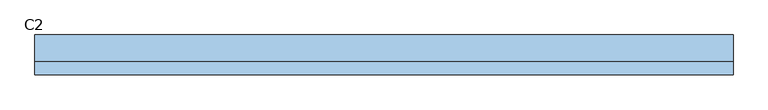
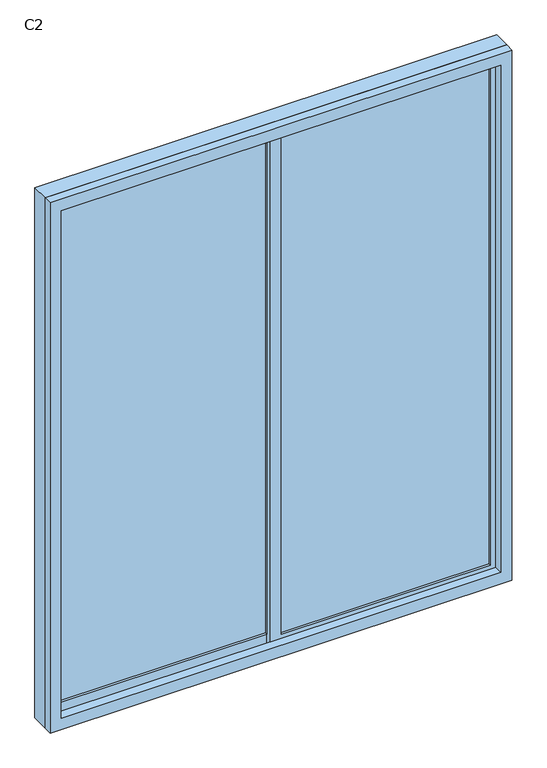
"""IFC4 building model written with IfcOpenShell, lengths in millimetres: window geometry, 推拉窗6 : C2."""

from ifc_helpers import new_model, si_unit, frame, origin, place, context, project, spatial, polyline, outline, extrude, source, transform, mapped, element, save


def c2_1197bc4f(model_context):
    return source(origin(), model_context, "Body", "SweptSolid", [
        extrude(outline(polyline([(-965.475, -36.8734375), (-15.475, -36.8734375), (-15.475, -46.8734375), (-965.475, -46.8734375), (-965.475, -36.8734375)])), frame((0.0, 0.0, 225.0), z_axis=(0.0, 0.0, 1.0), x_axis=(1.0, 0.0, 0.0)), (0.0, 0.0, 1.0), 2400.0),
        extrude(outline(polyline([(34.525, -66.8734375), (984.525, -66.8734375), (984.525, -76.8734375), (34.525, -76.8734375), (34.525, -66.8734375)])), frame((0.0, 0.0, 225.0), z_axis=(0.0, 0.0, 1.0), x_axis=(1.0, 0.0, 0.0)), (0.0, 0.0, 1.0), 2400.0),
        extrude(outline(polyline([(2700.0, -1040.475), (150.0, -1040.475), (150.0, 1059.525), (2700.0, 1059.525), (2700.0, -1040.475)]), holes=[polyline([(2645.0, 1009.525), (205.0, 1009.525), (205.0, -990.475), (2645.0, -990.475), (2645.0, 1009.525)])]), frame((0.0, -126.8734375, 0.0), z_axis=(0.0, 1.0, 0.0), x_axis=(0.0, 0.0, 1.0)), (0.0, 0.0, 1.0), 40.0),
        extrude(outline(polyline([(175.0, 34.525), (2675.0, 34.525), (2675.0, -1015.475), (175.0, -1015.475), (175.0, 34.525)]), holes=[polyline([(225.0, -15.475), (225.0, -965.475), (2625.0, -965.475), (2625.0, -15.475), (225.0, -15.475)])]), frame((0.0, -56.8734375, 0.0), z_axis=(0.0, 1.0, 0.0), x_axis=(0.0, 0.0, 1.0)), (0.0, 0.0, 1.0), 30.0),
        extrude(outline(polyline([(2675.0, -15.475), (175.0, -15.475), (175.0, 1034.525), (2675.0, 1034.525), (2675.0, -15.475)]), holes=[polyline([(2625.0, 34.525), (2625.0, 984.525), (225.0, 984.525), (225.0, 34.525), (2625.0, 34.525)])]), frame((0.0, -86.8734375, 0.0), z_axis=(0.0, 1.0, 0.0), x_axis=(0.0, 0.0, 1.0)), (0.0, 0.0, 1.0), 30.0),
        extrude(outline(polyline([(2700.0, -1040.475), (150.0, -1040.475), (150.0, 1059.525), (2700.0, 1059.525), (2700.0, -1040.475)]), holes=[polyline([(175.0, -1015.475), (2675.0, -1015.475), (2675.0, 1034.525), (175.0, 1034.525), (175.0, -1015.475)])]), frame((0.0, -86.8734375, 0.0), z_axis=(0.0, 1.0, 0.0), x_axis=(0.0, 0.0, 1.0)), (0.0, 0.0, 1.0), 80.0),
    ])


if __name__ == "__main__":
    model = new_model("IFC4")
    model_context = context("Model", 3, world=origin())
    ifc_project = project(units=[si_unit("LENGTHUNIT", "METRE", prefix="MILLI")], contexts=[model_context])
    site = spatial("IfcSite", under=ifc_project)
    building = spatial("IfcBuilding", under=site)
    placement = place(None, origin())
    c2_shape = c2_1197bc4f(model_context)
    element("IfcWindow", 1, ObjectType="推拉窗6 : C2", at=placement, inside=building, context=model_context, shape_type="MappedRepresentation", body=[
        mapped(c2_shape, transform((0.0, 0.0, 0.0), x_axis=(1.0, 0.0, 0.0), y_axis=(0.0, 1.0, 0.0), z_axis=(0.0, 0.0, 1.0))),
    ])
    save(model, "model.ifc")
